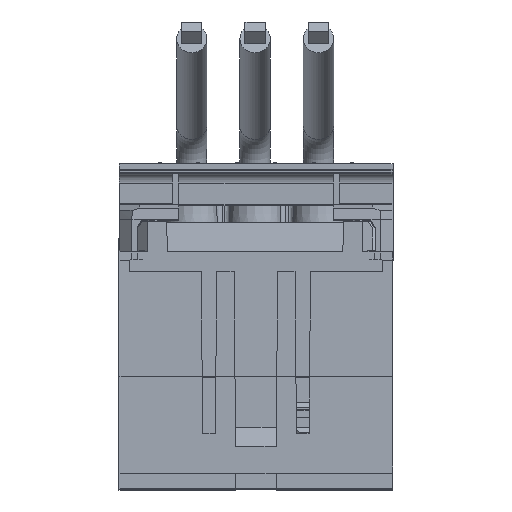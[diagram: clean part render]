
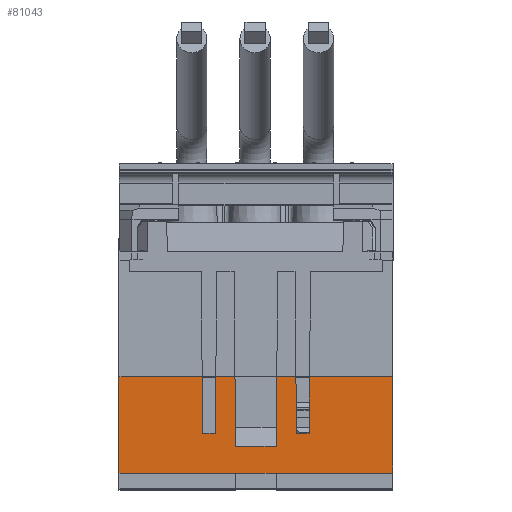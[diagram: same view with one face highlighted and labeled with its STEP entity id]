
A CAD part, top view. The second image highlights one B-rep face of the part: STEP entity #81043.
In plain terms, the highlighted planar face has unit normal (0, -0.009, 1).
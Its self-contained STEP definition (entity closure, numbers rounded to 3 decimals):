
#259 = CARTESIAN_POINT ( 'NONE',  ( -8., -15.7, 199.902 ) ) ;
#975 = CARTESIAN_POINT ( 'NONE',  ( 4., -23.5, 199.833 ) ) ;
#1130 = LINE ( 'NONE', #14956, #11617 ) ;
#1752 = CARTESIAN_POINT ( 'NONE',  ( 4.122, -4.5, 199.999 ) ) ;
#2954 = ORIENTED_EDGE ( 'NONE', *, *, #54658, .T. ) ;
#3035 = EDGE_CURVE ( 'NONE', #44427, #50208, #24564, .T. ) ;
#3251 = DIRECTION ( 'NONE',  ( 1., 0., 0. ) ) ;
#3443 = CARTESIAN_POINT ( 'NONE',  ( 10.5, -15.7, 199.902 ) ) ;
#4934 = CARTESIAN_POINT ( 'NONE',  ( 27., -4.5, 199.999 ) ) ;
#5141 = DIRECTION ( 'NONE',  ( -1., 0., 0. ) ) ;
#7104 = CARTESIAN_POINT ( 'NONE',  ( -4., -23.5, 199.833 ) ) ;
#7754 = VECTOR ( 'NONE', #34068, 1000. ) ;
#8428 = CARTESIAN_POINT ( 'NONE',  ( -27., -4.5, 199.999 ) ) ;
#9980 = LINE ( 'NONE', #49070, #87296 ) ;
#10138 = VERTEX_POINT ( 'NONE', #3443 ) ;
#10948 = EDGE_LOOP ( 'NONE', ( #64843, #29109, #91794, #46705, #2954, #34789, #30364, #40870, #82765, #12336, #91124, #78639, #52100, #62849, #70754, #86291, #88088, #34353 ) ) ;
#11271 = CARTESIAN_POINT ( 'NONE',  ( -26., -15.7, 199.902 ) ) ;
#11332 = EDGE_CURVE ( 'NONE', #75298, #95793, #1130, .T. ) ;
#11420 = VERTEX_POINT ( 'NONE', #259 ) ;
#11617 = VECTOR ( 'NONE', #30067, 1000. ) ;
#11695 = LINE ( 'NONE', #70348, #12920 ) ;
#12307 = LINE ( 'NONE', #96415, #59163 ) ;
#12336 = ORIENTED_EDGE ( 'NONE', *, *, #86035, .T. ) ;
#12920 = VECTOR ( 'NONE', #3251, 1000. ) ;
#14693 = LINE ( 'NONE', #90268, #52263 ) ;
#14956 = CARTESIAN_POINT ( 'NONE',  ( -4.003, -18.18, 199.88 ) ) ;
#15186 = EDGE_CURVE ( 'NONE', #52038, #75204, #12307, .T. ) ;
#15672 = DIRECTION ( 'NONE',  ( 1., 0., 0. ) ) ;
#15761 = EDGE_CURVE ( 'NONE', #92392, #31499, #41613, .T. ) ;
#19199 = CARTESIAN_POINT ( 'NONE',  ( 4.003, -18.18, 199.88 ) ) ;
#19347 = CARTESIAN_POINT ( 'NONE',  ( 10.778, 16.2, 200.18 ) ) ;
#20738 = CARTESIAN_POINT ( 'NONE',  ( -10.598, -4.5, 199.999 ) ) ;
#22432 = LINE ( 'NONE', #83706, #31877 ) ;
#23034 = LINE ( 'NONE', #19347, #34795 ) ;
#23118 = CARTESIAN_POINT ( 'NONE',  ( -4.122, -4.5, 199.999 ) ) ;
#23231 = CARTESIAN_POINT ( 'NONE',  ( -26., -4.5, 199.999 ) ) ;
#23540 = DIRECTION ( 'NONE',  ( 1., 0., 0. ) ) ;
#24564 = LINE ( 'NONE', #62131, #59692 ) ;
#28330 = DIRECTION ( 'NONE',  ( -0.009, -1., -0.009 ) ) ;
#29109 = ORIENTED_EDGE ( 'NONE', *, *, #15761, .T. ) ;
#30021 = DIRECTION ( 'NONE',  ( 1., 0., 0. ) ) ;
#30067 = DIRECTION ( 'NONE',  ( -0.009, 1., 0.009 ) ) ;
#30364 = ORIENTED_EDGE ( 'NONE', *, *, #15186, .F. ) ;
#31499 = VERTEX_POINT ( 'NONE', #85418 ) ;
#31877 = VECTOR ( 'NONE', #61833, 1000. ) ;
#31987 = VERTEX_POINT ( 'NONE', #39615 ) ;
#32145 = LINE ( 'NONE', #11271, #73030 ) ;
#33799 = VECTOR ( 'NONE', #60848, 1000. ) ;
#33989 = CARTESIAN_POINT ( 'NONE',  ( -26., 18.5, 200.2 ) ) ;
#34068 = DIRECTION ( 'NONE',  ( 1., 0., 0. ) ) ;
#34353 = ORIENTED_EDGE ( 'NONE', *, *, #94093, .T. ) ;
#34587 = DIRECTION ( 'NONE',  ( -1., 0., 0. ) ) ;
#34789 = ORIENTED_EDGE ( 'NONE', *, *, #92458, .T. ) ;
#34795 = VECTOR ( 'NONE', #35080, 1000. ) ;
#35080 = DIRECTION ( 'NONE',  ( -0.009, -1., -0.009 ) ) ;
#35236 = DIRECTION ( 'NONE',  ( -0.009, 1., 0.009 ) ) ;
#37005 = FACE_OUTER_BOUND ( 'NONE', #10948, .T. ) ;
#37799 = CARTESIAN_POINT ( 'NONE',  ( 7.902, -4.5, 199.999 ) ) ;
#38635 = EDGE_CURVE ( 'NONE', #69641, #76579, #62229, .T. ) ;
#39615 = CARTESIAN_POINT ( 'NONE',  ( -10.5, -15.7, 199.902 ) ) ;
#40176 = DIRECTION ( 'NONE',  ( -0.009, -1., -0.009 ) ) ;
#40870 = ORIENTED_EDGE ( 'NONE', *, *, #54415, .T. ) ;
#41613 = LINE ( 'NONE', #89279, #87192 ) ;
#42826 = DIRECTION ( 'NONE',  ( 0., -0.009, 1. ) ) ;
#43042 = DIRECTION ( 'NONE',  ( 1., 0., 0. ) ) ;
#44280 = CARTESIAN_POINT ( 'NONE',  ( -26., -4.5, 199.999 ) ) ;
#44301 = LINE ( 'NONE', #45155, #33799 ) ;
#44427 = VERTEX_POINT ( 'NONE', #1752 ) ;
#45155 = CARTESIAN_POINT ( 'NONE',  ( 8., -15.7, 199.902 ) ) ;
#46705 = ORIENTED_EDGE ( 'NONE', *, *, #38635, .T. ) ;
#46732 = VERTEX_POINT ( 'NONE', #37799 ) ;
#49070 = CARTESIAN_POINT ( 'NONE',  ( -26., -15.7, 199.902 ) ) ;
#50208 = VERTEX_POINT ( 'NONE', #19199 ) ;
#50256 = CARTESIAN_POINT ( 'NONE',  ( -26., -23.5, 199.833 ) ) ;
#51446 = DIRECTION ( 'NONE',  ( -1., 0., 0. ) ) ;
#51551 = LINE ( 'NONE', #80010, #58560 ) ;
#52038 = VERTEX_POINT ( 'NONE', #82873 ) ;
#52100 = ORIENTED_EDGE ( 'NONE', *, *, #52947, .T. ) ;
#52263 = VECTOR ( 'NONE', #23540, 1000. ) ;
#52633 = VERTEX_POINT ( 'NONE', #20738 ) ;
#52947 = EDGE_CURVE ( 'NONE', #50208, #75298, #61368, .T. ) ;
#54415 = EDGE_CURVE ( 'NONE', #52038, #10138, #23034, .T. ) ;
#54658 = EDGE_CURVE ( 'NONE', #76579, #94148, #14693, .T. ) ;
#58560 = VECTOR ( 'NONE', #35236, 1000. ) ;
#59163 = VECTOR ( 'NONE', #30021, 1000. ) ;
#59692 = VECTOR ( 'NONE', #40176, 1000. ) ;
#59986 = DIRECTION ( 'NONE',  ( 1., 0., 0. ) ) ;
#60512 = LINE ( 'NONE', #975, #7754 ) ;
#60702 = EDGE_CURVE ( 'NONE', #44427, #46732, #62149, .T. ) ;
#60848 = DIRECTION ( 'NONE',  ( -0.009, 1., 0.009 ) ) ;
#61368 = LINE ( 'NONE', #81473, #77698 ) ;
#61833 = DIRECTION ( 'NONE',  ( 0., 1., 0.009 ) ) ;
#62131 = CARTESIAN_POINT ( 'NONE',  ( 4.303, 16.2, 200.18 ) ) ;
#62142 = VERTEX_POINT ( 'NONE', #93946 ) ;
#62149 = LINE ( 'NONE', #44280, #71496 ) ;
#62229 = LINE ( 'NONE', #50256, #83210 ) ;
#62849 = ORIENTED_EDGE ( 'NONE', *, *, #11332, .T. ) ;
#64098 = PLANE ( 'NONE',  #86503 ) ;
#64843 = ORIENTED_EDGE ( 'NONE', *, *, #93676, .F. ) ;
#65070 = DIRECTION ( 'NONE',  ( 0., -1., -0.009 ) ) ;
#66001 = VECTOR ( 'NONE', #28330, 1000. ) ;
#66586 = CARTESIAN_POINT ( 'NONE',  ( 27., -23.5, 199.833 ) ) ;
#67822 = EDGE_CURVE ( 'NONE', #80417, #95793, #74713, .T. ) ;
#69395 = EDGE_CURVE ( 'NONE', #31499, #69641, #60512, .T. ) ;
#69641 = VERTEX_POINT ( 'NONE', #7104 ) ;
#70348 = CARTESIAN_POINT ( 'NONE',  ( -26., -4.5, 199.999 ) ) ;
#70754 = ORIENTED_EDGE ( 'NONE', *, *, #67822, .F. ) ;
#71496 = VECTOR ( 'NONE', #59986, 1000. ) ;
#73030 = VECTOR ( 'NONE', #34587, 1000. ) ;
#73470 = CARTESIAN_POINT ( 'NONE',  ( -7.902, -4.5, 199.999 ) ) ;
#74557 = DIRECTION ( 'NONE',  ( 0., -1., -0.009 ) ) ;
#74713 = LINE ( 'NONE', #23231, #93426 ) ;
#75204 = VERTEX_POINT ( 'NONE', #4934 ) ;
#75298 = VERTEX_POINT ( 'NONE', #96181 ) ;
#76579 = VERTEX_POINT ( 'NONE', #87259 ) ;
#77698 = VECTOR ( 'NONE', #51446, 1000. ) ;
#78639 = ORIENTED_EDGE ( 'NONE', *, *, #3035, .T. ) ;
#80010 = CARTESIAN_POINT ( 'NONE',  ( -10.5, -15.7, 199.902 ) ) ;
#80417 = VERTEX_POINT ( 'NONE', #73470 ) ;
#81031 = EDGE_CURVE ( 'NONE', #11420, #31987, #9980, .T. ) ;
#81043 = ADVANCED_FACE ( 'NONE', ( #37005 ), #64098, .T. ) ;
#81473 = CARTESIAN_POINT ( 'NONE',  ( -26., -18.18, 199.88 ) ) ;
#82574 = EDGE_CURVE ( 'NONE', #10138, #62142, #32145, .T. ) ;
#82709 = EDGE_CURVE ( 'NONE', #80417, #11420, #89360, .T. ) ;
#82765 = ORIENTED_EDGE ( 'NONE', *, *, #82574, .T. ) ;
#82873 = CARTESIAN_POINT ( 'NONE',  ( 10.598, -4.5, 199.999 ) ) ;
#83210 = VECTOR ( 'NONE', #43042, 1000. ) ;
#83706 = CARTESIAN_POINT ( 'NONE',  ( 27., 18.5, 200.2 ) ) ;
#85418 = CARTESIAN_POINT ( 'NONE',  ( -27., -23.5, 199.833 ) ) ;
#86035 = EDGE_CURVE ( 'NONE', #62142, #46732, #44301, .T. ) ;
#86291 = ORIENTED_EDGE ( 'NONE', *, *, #82709, .T. ) ;
#86503 = AXIS2_PLACEMENT_3D ( 'NONE', #33989, #42826, #65070 ) ;
#87192 = VECTOR ( 'NONE', #74557, 1000. ) ;
#87259 = CARTESIAN_POINT ( 'NONE',  ( 4., -23.5, 199.833 ) ) ;
#87296 = VECTOR ( 'NONE', #5141, 1000. ) ;
#88088 = ORIENTED_EDGE ( 'NONE', *, *, #81031, .T. ) ;
#89279 = CARTESIAN_POINT ( 'NONE',  ( -27., 18.5, 200.2 ) ) ;
#89360 = LINE ( 'NONE', #96307, #66001 ) ;
#90268 = CARTESIAN_POINT ( 'NONE',  ( -26., -23.5, 199.833 ) ) ;
#91124 = ORIENTED_EDGE ( 'NONE', *, *, #60702, .F. ) ;
#91794 = ORIENTED_EDGE ( 'NONE', *, *, #69395, .T. ) ;
#92392 = VERTEX_POINT ( 'NONE', #8428 ) ;
#92458 = EDGE_CURVE ( 'NONE', #94148, #75204, #22432, .T. ) ;
#93426 = VECTOR ( 'NONE', #15672, 1000. ) ;
#93676 = EDGE_CURVE ( 'NONE', #92392, #52633, #11695, .T. ) ;
#93946 = CARTESIAN_POINT ( 'NONE',  ( 8., -15.7, 199.902 ) ) ;
#94093 = EDGE_CURVE ( 'NONE', #31987, #52633, #51551, .T. ) ;
#94148 = VERTEX_POINT ( 'NONE', #66586 ) ;
#95793 = VERTEX_POINT ( 'NONE', #23118 ) ;
#96181 = CARTESIAN_POINT ( 'NONE',  ( -4.003, -18.18, 199.88 ) ) ;
#96307 = CARTESIAN_POINT ( 'NONE',  ( -7.722, 16.2, 200.18 ) ) ;
#96415 = CARTESIAN_POINT ( 'NONE',  ( -26., -4.5, 199.999 ) ) ;
